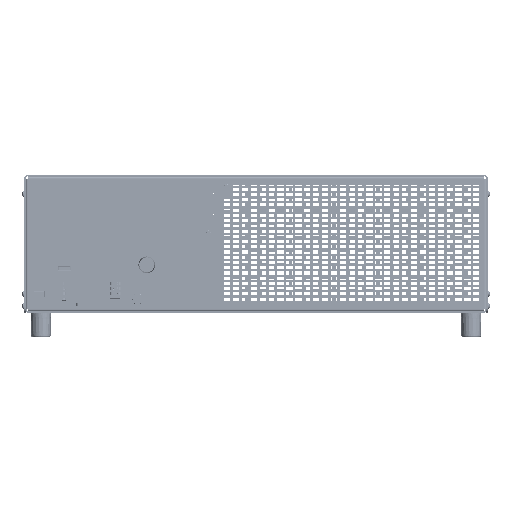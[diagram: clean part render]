
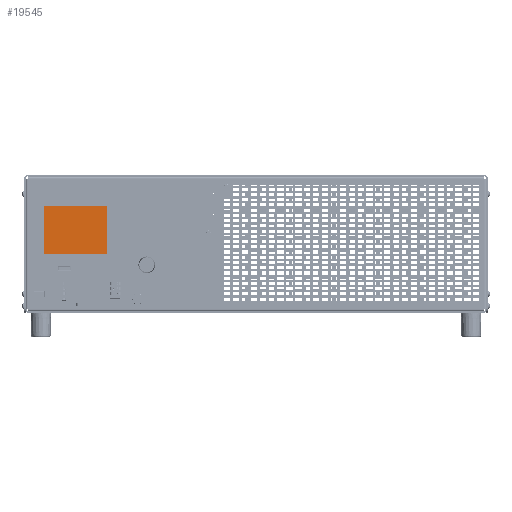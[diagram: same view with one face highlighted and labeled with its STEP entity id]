
A CAD part, front view. The second image highlights one B-rep face of the part: STEP entity #19545.
In plain terms, the highlighted planar face has unit normal (0, -1, 0).
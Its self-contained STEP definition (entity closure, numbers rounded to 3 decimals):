
#19545=ADVANCED_FACE('',(#50382),#50383,.T.);
#50382=FACE_OUTER_BOUND('',#100217,.T.);
#50383=PLANE('',#100218);
#100217=EDGE_LOOP('',(#167976,#167977,#167978,#167979));
#100218=AXIS2_PLACEMENT_3D('',#167980,#167981,#167982);
#167976=ORIENTED_EDGE('',*,*,#273447,.F.);
#167977=ORIENTED_EDGE('',*,*,#273460,.F.);
#167978=ORIENTED_EDGE('',*,*,#273456,.F.);
#167979=ORIENTED_EDGE('',*,*,#273452,.F.);
#167980=CARTESIAN_POINT('',(43.14,-2.2,79.072));
#167981=DIRECTION('',(0.0,-1.0,0.));
#167982=DIRECTION('',(1.0,0.0,0.0));
#273447=EDGE_CURVE('',#323547,#323548,#323549,.T.);
#273452=EDGE_CURVE('',#323548,#323556,#323557,.T.);
#273456=EDGE_CURVE('',#323556,#323562,#323563,.T.);
#273460=EDGE_CURVE('',#323562,#323547,#323568,.T.);
#323547=VERTEX_POINT('',#401921);
#323548=VERTEX_POINT('',#401922);
#323549=LINE('',#401923,#401924);
#323556=VERTEX_POINT('',#401934);
#323557=LINE('',#401935,#401936);
#323562=VERTEX_POINT('',#401943);
#323563=LINE('',#401944,#401945);
#323568=LINE('',#401952,#401953);
#401921=CARTESIAN_POINT('',(12.84,-2.2,102.172));
#401922=CARTESIAN_POINT('',(73.44,-2.2,102.172));
#401923=CARTESIAN_POINT('',(12.84,-2.2,102.172));
#401924=VECTOR('',#514211,1.0);
#401934=CARTESIAN_POINT('',(73.44,-2.2,55.972));
#401935=CARTESIAN_POINT('',(73.44,-2.2,102.172));
#401936=VECTOR('',#514215,1.0);
#401943=CARTESIAN_POINT('',(12.84,-2.2,55.972));
#401944=CARTESIAN_POINT('',(73.44,-2.2,55.972));
#401945=VECTOR('',#514218,1.0);
#401952=CARTESIAN_POINT('',(12.84,-2.2,55.972));
#401953=VECTOR('',#514221,1.0);
#514211=DIRECTION('',(1.0,0.0,0.0));
#514215=DIRECTION('',(0.0,0.,-1.0));
#514218=DIRECTION('',(-1.0,0.0,0.0));
#514221=DIRECTION('',(0.0,0.,1.0));
